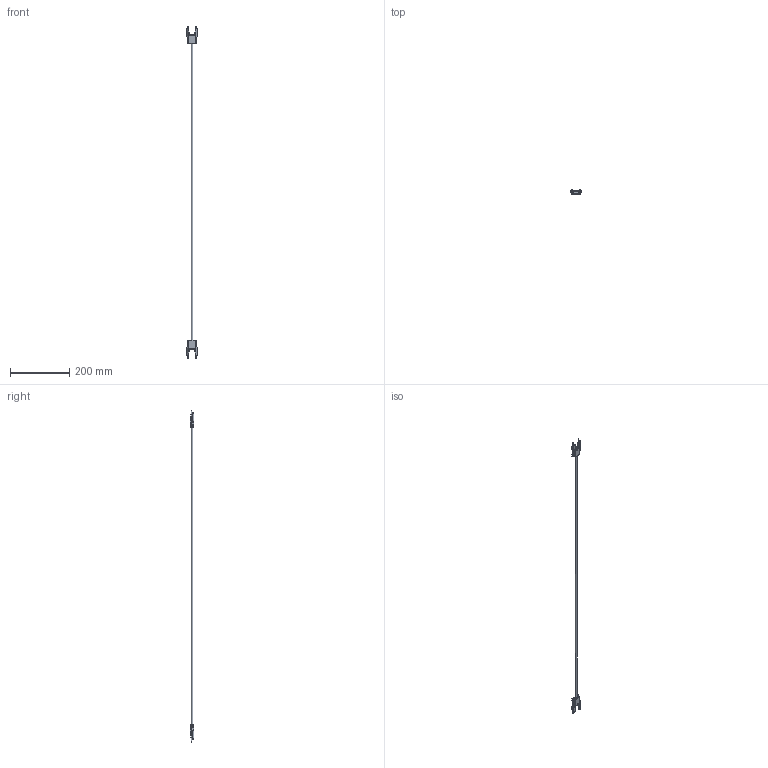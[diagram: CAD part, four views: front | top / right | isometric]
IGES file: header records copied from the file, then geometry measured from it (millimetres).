
Global section: file name: C:\Users\lrossetti\OneDrive - Datalogic S.p.a\Desktop\SG4E plugs - DSD igs\DSD-0343.igs; native system: NX V12.0; preprocessor: SIEMENS PLM Software NX 12.0; date: 20200605.160756; units: millimetre
Bounding box: 35 x 13.4 x 1121.4 mm (x, y, z)
Surface area: 51540.9 mm2 (no closed solid volume)
Topology: 0 solids, 0 shells, 1545 faces, 8434 edges, 8330 vertices
Faces by surface type: bspline 1545
